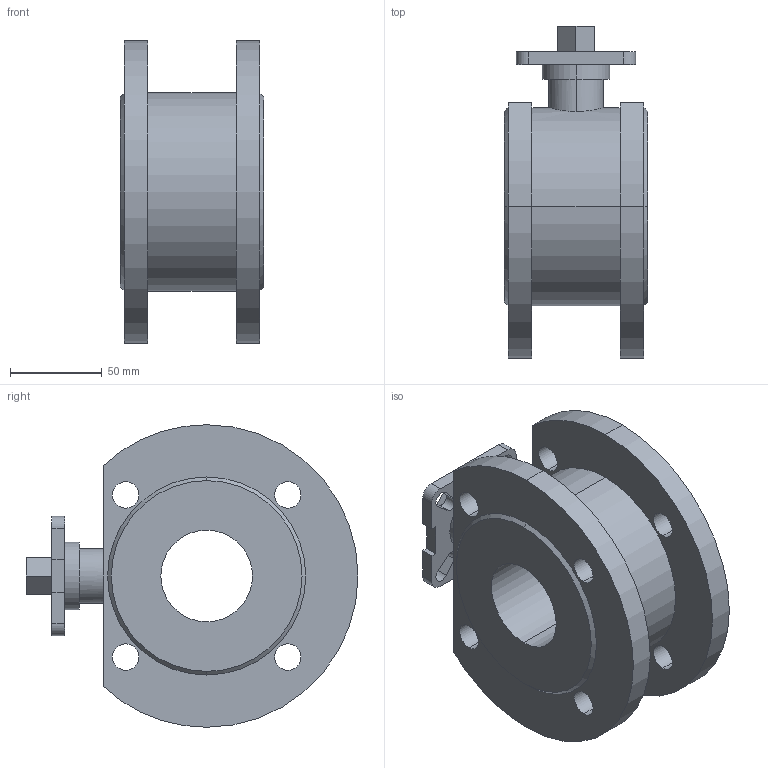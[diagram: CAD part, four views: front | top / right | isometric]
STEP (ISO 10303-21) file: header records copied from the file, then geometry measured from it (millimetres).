
FILE_DESCRIPTION (( 'STEP AP203' ), '1' );
FILE_NAME ('01.622I050016CP.STEP', '2018-10-23T08:27:17', ( '' ), ( '' ), 'SwSTEP 2.0', 'SolidWorks 2014', '' );
FILE_SCHEMA (( 'CONFIG_CONTROL_DESIGN' ));
Length unit declared in the file: millimetre
Products named in the file (1): 01.622I050016CP
Bounding box: 78 x 181 x 165 mm (x, y, z)
Volume: 852277.5 mm3; surface area: 110987.1 mm2
Topology: 1 solids, 1 shells, 86 faces, 228 edges, 152 vertices
Faces by surface type: cylinder 46, plane 36, cone 4
Entity records: 2935 total; most frequent: CARTESIAN_POINT 567, DIRECTION 498, ORIENTED_EDGE 456, EDGE_CURVE 228, AXIS2_PLACEMENT_3D 185, VERTEX_POINT 152, VECTOR 128, LINE 128
